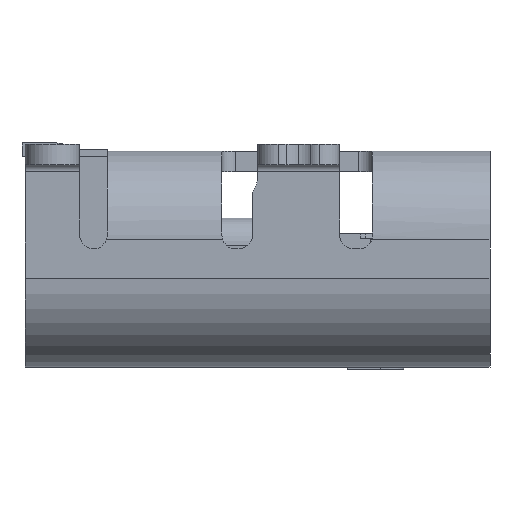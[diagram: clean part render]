
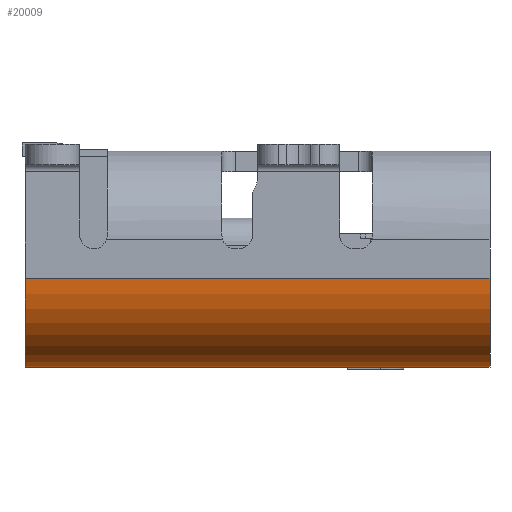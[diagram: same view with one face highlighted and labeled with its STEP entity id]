
A CAD part, left-side view. The second image highlights one B-rep face of the part: STEP entity #20009.
In plain terms, the highlighted cylindrical face has radius 1.3 mm (diameter 2.6 mm), a partial arc.
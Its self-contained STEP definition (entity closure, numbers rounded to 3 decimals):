
#335 = CARTESIAN_POINT ( 'NONE',  ( -4.47, 3.67, -0.28 ) ) ;
#1551 = DIRECTION ( 'NONE',  ( 0., 1., 0. ) ) ;
#1649 = CARTESIAN_POINT ( 'NONE',  ( -3.17, -3.266, -0.28 ) ) ;
#1861 = VERTEX_POINT ( 'NONE', #7158 ) ;
#2141 = DIRECTION ( 'NONE',  ( 0., 1., 0. ) ) ;
#2868 = VERTEX_POINT ( 'NONE', #9365 ) ;
#3115 = CYLINDRICAL_SURFACE ( 'NONE', #20205, 1.3 ) ;
#3483 = CARTESIAN_POINT ( 'NONE',  ( -3.17, 3.67, -0.28 ) ) ;
#4712 = CIRCLE ( 'NONE', #5384, 1.3 ) ;
#5137 = LINE ( 'NONE', #14943, #11988 ) ;
#5144 = LINE ( 'NONE', #335, #9095 ) ;
#5384 = AXIS2_PLACEMENT_3D ( 'NONE', #13212, #2141, #18017 ) ;
#7158 = CARTESIAN_POINT ( 'NONE',  ( -4.47, -3.13, -0.28 ) ) ;
#7236 = DIRECTION ( 'NONE',  ( 0., 0., -1. ) ) ;
#7941 = ORIENTED_EDGE ( 'NONE', *, *, #19281, .F. ) ;
#8503 = AXIS2_PLACEMENT_3D ( 'NONE', #3483, #9854, #7236 ) ;
#9095 = VECTOR ( 'NONE', #9536, 1000. ) ;
#9365 = CARTESIAN_POINT ( 'NONE',  ( -4.47, 3.67, -0.28 ) ) ;
#9536 = DIRECTION ( 'NONE',  ( 0., -1., 0. ) ) ;
#9838 = DIRECTION ( 'NONE',  ( 0., 1., 0. ) ) ;
#9854 = DIRECTION ( 'NONE',  ( 0., 1., 0. ) ) ;
#10229 = CARTESIAN_POINT ( 'NONE',  ( -3.17, -3.13, -1.58 ) ) ;
#10234 = EDGE_CURVE ( 'NONE', #20133, #13029, #5137, .T. ) ;
#10372 = ORIENTED_EDGE ( 'NONE', *, *, #10234, .F. ) ;
#10493 = CIRCLE ( 'NONE', #8503, 1.3 ) ;
#11988 = VECTOR ( 'NONE', #9838, 1000. ) ;
#13029 = VERTEX_POINT ( 'NONE', #15560 ) ;
#13212 = CARTESIAN_POINT ( 'NONE',  ( -3.17, -3.13, -0.28 ) ) ;
#14345 = EDGE_CURVE ( 'NONE', #20133, #1861, #4712, .T. ) ;
#14943 = CARTESIAN_POINT ( 'NONE',  ( -3.17, -3.13, -1.58 ) ) ;
#15560 = CARTESIAN_POINT ( 'NONE',  ( -3.17, 3.67, -1.58 ) ) ;
#16061 = FACE_OUTER_BOUND ( 'NONE', #17395, .T. ) ;
#17395 = EDGE_LOOP ( 'NONE', ( #19261, #7941, #10372, #20194 ) ) ;
#18004 = EDGE_CURVE ( 'NONE', #2868, #1861, #5144, .T. ) ;
#18017 = DIRECTION ( 'NONE',  ( 0., 0., -1. ) ) ;
#19261 = ORIENTED_EDGE ( 'NONE', *, *, #18004, .F. ) ;
#19281 = EDGE_CURVE ( 'NONE', #13029, #2868, #10493, .T. ) ;
#20009 = ADVANCED_FACE ( 'NONE', ( #16061 ), #3115, .T. ) ;
#20133 = VERTEX_POINT ( 'NONE', #10229 ) ;
#20194 = ORIENTED_EDGE ( 'NONE', *, *, #14345, .T. ) ;
#20205 = AXIS2_PLACEMENT_3D ( 'NONE', #1649, #1551, #20664 ) ;
#20664 = DIRECTION ( 'NONE',  ( -1., 0., 0. ) ) ;
